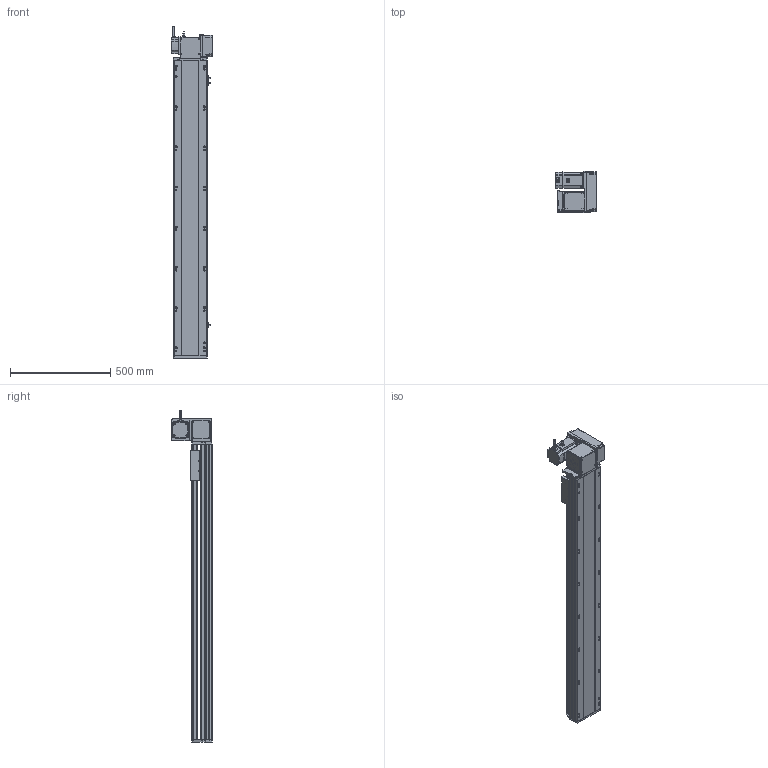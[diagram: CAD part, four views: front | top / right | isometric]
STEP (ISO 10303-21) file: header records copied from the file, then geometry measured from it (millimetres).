
FILE_DESCRIPTION (( 'STEP AP214' ), '1' );
FILE_NAME ('RTB17S-XX-1200-RW-M75-C4.STEP', '2025-12-12T02:37:20', ( '' ), ( '' ), 'SwSTEP 2.0', 'SolidWorks 2018', '' );
FILE_SCHEMA (( 'AUTOMOTIVE_DESIGN' ));
Length unit declared in the file: millimetre
Products named in the file (15): RTB17-R-011菁釱^RTB17S-XX-XX-RW-M75-C4; RTB17S-XX-1200-RW-M75-C4; RTB22S-GY-008-M75--萇儂啣^RTB17S-RW-々湍釱蚾饜-750W_RTB17S-XX-XX-RW-M75-C4; RTB17S-RW-々湍釱蚾饜-750W^RTB17S-XX-XX-RW-M75-C4; EE672^RTB17S-XX-XX-RW-M75-C4; RTB17S-賑釱^RTB17S-XX-XX-RW-M75-C4; RTB22S-GY-018P^RTB17S-RW-々湍釱蚾饜-750W_RTB17S-XX-XX-RW-M75-C4; 750W萇儂^RTB17S-XX-XX-RW-M75-C4; RMP17S-L-014-T20-P75--々湍釱^RTB17S-RW-々湍釱蚾饜-750W_RTB17S-XX-XX-RW-M75-C4; RTB22S-GY-005P^RTB17S-RW-々湍釱蚾饜-750W_RTB17S-XX-XX-RW-M75-C4; RTB17S-L-007奻裔^RTB17S-XX-XX-RW-M75-C4; RTB17S-L-004-賑釱^RTB17S-賑釱_RTB17S-XX-XX-RW-M75-C4; RTB22S-GY-017P^RTB17S-RW-々湍釱蚾饜-750W_RTB17S-XX-XX-RW-M75-C4; RTB17S-L-001-耜醱啣^RTB17S-XX-XX-RW-M75-C4; RTH13-BL-012覜茼え俋离^RTB17S-賑釱_RTB17S-XX-XX-RW-M75-C4
Assembly tree (17 placements, depth 3):
  RTB17S-XX-1200-RW-M75-C4
    RTB17-R-011菁釱^RTB17S-XX-XX-RW-M75-C4
    EE672^RTB17S-XX-XX-RW-M75-C4  x3
    RTB17S-L-001-耜醱啣^RTB17S-XX-XX-RW-M75-C4
    RTB17S-賑釱^RTB17S-XX-XX-RW-M75-C4
      RTB17S-L-004-賑釱^RTB17S-賑釱_RTB17S-XX-XX-RW-M75-C4
      RTH13-BL-012覜茼え俋离^RTB17S-賑釱_RTB17S-XX-XX-RW-M75-C4
    RTB17S-L-007奻裔^RTB17S-XX-XX-RW-M75-C4
    750W萇儂^RTB17S-XX-XX-RW-M75-C4
    RTB17S-RW-々湍釱蚾饜-750W^RTB17S-XX-XX-RW-M75-C4
      RMP17S-L-014-T20-P75--々湍釱^RTB17S-RW-々湍釱蚾饜-750W_RTB17S-XX-XX-RW-M75-C4
      RTB22S-GY-005P^RTB17S-RW-々湍釱蚾饜-750W_RTB17S-XX-XX-RW-M75-C4
      RTB22S-GY-017P^RTB17S-RW-々湍釱蚾饜-750W_RTB17S-XX-XX-RW-M75-C4  x2
      RTB22S-GY-008-M75--萇儂啣^RTB17S-RW-々湍釱蚾饜-750W_RTB17S-XX-XX-RW-M75-C4
      RTB22S-GY-018P^RTB17S-RW-々湍釱蚾饜-750W_RTB17S-XX-XX-RW-M75-C4
Bounding box: 207.4 x 201.5 x 1652.2 mm (x, y, z)
Volume: 13453992 mm3; surface area: 2315685.6 mm2
Topology: 17 solids, 17 shells, 2105 faces, 5836 edges, 3770 vertices
Faces by surface type: plane 972, cylinder 717, bspline 294, cone 110, sphere 8, torus 4
Entity records: 58870 total; most frequent: CARTESIAN_POINT 17300, ORIENTED_EDGE 8516, DIRECTION 7952, EDGE_CURVE 4258, AXIS2_PLACEMENT_3D 2790, VERTEX_POINT 2774, VECTOR 2372, LINE 2372
